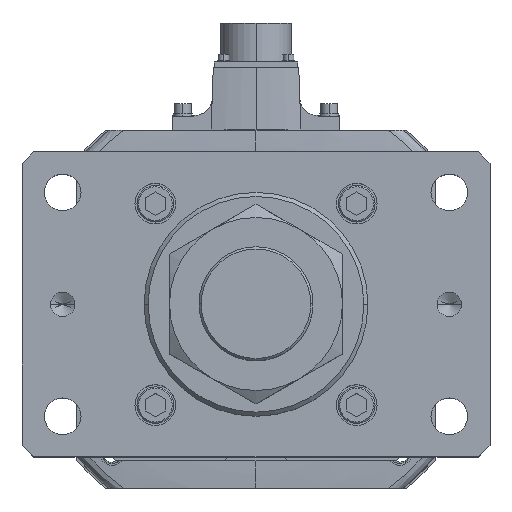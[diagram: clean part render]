
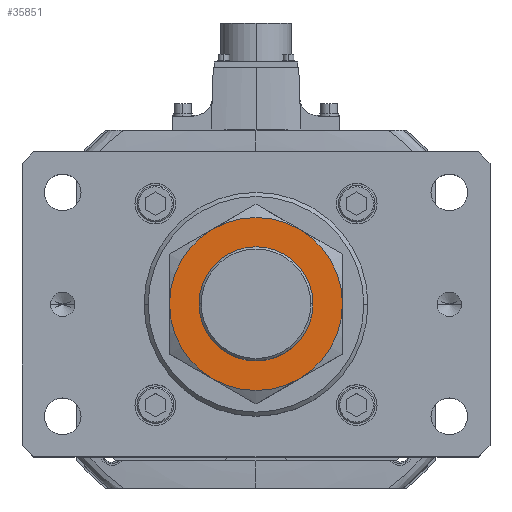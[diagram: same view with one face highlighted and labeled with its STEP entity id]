
A CAD part, top view. The second image highlights one B-rep face of the part: STEP entity #35851.
In plain terms, the highlighted planar face has unit normal (0, 0, 1).
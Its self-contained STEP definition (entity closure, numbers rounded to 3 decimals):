
#691 = CARTESIAN_POINT ( 'NONE',  ( 0., 0., 34. ) ) ;
#1355 = VERTEX_POINT ( 'NONE', #35332 ) ;
#1514 = VERTEX_POINT ( 'NONE', #39992 ) ;
#1523 = EDGE_LOOP ( 'NONE', ( #12354, #27371, #54067, #33827, #45844, #13050 ) ) ;
#2050 = DIRECTION ( 'NONE',  ( 1., 0., 0. ) ) ;
#2121 = EDGE_CURVE ( 'NONE', #25323, #1355, #6142, .T. ) ;
#2444 = PLANE ( 'NONE',  #30881 ) ;
#2595 = CIRCLE ( 'NONE', #28443, 28. ) ;
#4460 = CARTESIAN_POINT ( 'NONE',  ( 0., 0., 34. ) ) ;
#5567 = CARTESIAN_POINT ( 'NONE',  ( 0., 0., 34. ) ) ;
#5686 = DIRECTION ( 'NONE',  ( 1., 0., 0. ) ) ;
#6142 = CIRCLE ( 'NONE', #21937, 42.5 ) ;
#6478 = EDGE_CURVE ( 'NONE', #6547, #7341, #51299, .T. ) ;
#6547 = VERTEX_POINT ( 'NONE', #47926 ) ;
#7341 = VERTEX_POINT ( 'NONE', #15050 ) ;
#7449 = DIRECTION ( 'NONE',  ( 1., 0., 0. ) ) ;
#7695 = VERTEX_POINT ( 'NONE', #30955 ) ;
#8396 = CIRCLE ( 'NONE', #19869, 42.5 ) ;
#8787 = ORIENTED_EDGE ( 'NONE', *, *, #28664, .F. ) ;
#10409 = CIRCLE ( 'NONE', #44516, 28. ) ;
#10667 = CARTESIAN_POINT ( 'NONE',  ( 0., 0., 34. ) ) ;
#11697 = CARTESIAN_POINT ( 'NONE',  ( -28., 0., 34. ) ) ;
#12354 = ORIENTED_EDGE ( 'NONE', *, *, #15583, .F. ) ;
#12389 = AXIS2_PLACEMENT_3D ( 'NONE', #34413, #47267, #51345 ) ;
#12630 = VERTEX_POINT ( 'NONE', #11697 ) ;
#13050 = ORIENTED_EDGE ( 'NONE', *, *, #2121, .F. ) ;
#15021 = DIRECTION ( 'NONE',  ( 0., 0., 1. ) ) ;
#15050 = CARTESIAN_POINT ( 'NONE',  ( 21.25, 36.806, 34. ) ) ;
#15242 = CARTESIAN_POINT ( 'NONE',  ( 0., 0., 34. ) ) ;
#15583 = EDGE_CURVE ( 'NONE', #23037, #25323, #8396, .T. ) ;
#16137 = EDGE_CURVE ( 'NONE', #1355, #7695, #34293, .T. ) ;
#17100 = CARTESIAN_POINT ( 'NONE',  ( 0., 0., 34. ) ) ;
#17274 = AXIS2_PLACEMENT_3D ( 'NONE', #4460, #34202, #38496 ) ;
#18133 = EDGE_CURVE ( 'NONE', #12630, #1514, #2595, .T. ) ;
#19869 = AXIS2_PLACEMENT_3D ( 'NONE', #5567, #39251, #35323 ) ;
#21937 = AXIS2_PLACEMENT_3D ( 'NONE', #10667, #23665, #40997 ) ;
#23037 = VERTEX_POINT ( 'NONE', #54166 ) ;
#23665 = DIRECTION ( 'NONE',  ( 0., 0., -1. ) ) ;
#25323 = VERTEX_POINT ( 'NONE', #29131 ) ;
#27371 = ORIENTED_EDGE ( 'NONE', *, *, #43553, .F. ) ;
#28443 = AXIS2_PLACEMENT_3D ( 'NONE', #44454, #15021, #2050 ) ;
#28664 = EDGE_CURVE ( 'NONE', #1514, #12630, #10409, .T. ) ;
#28803 = CIRCLE ( 'NONE', #46557, 42.5 ) ;
#29131 = CARTESIAN_POINT ( 'NONE',  ( 21.25, -36.806, 34. ) ) ;
#29427 = DIRECTION ( 'NONE',  ( 1., 0., 0. ) ) ;
#30881 = AXIS2_PLACEMENT_3D ( 'NONE', #15242, #36848, #7449 ) ;
#30955 = CARTESIAN_POINT ( 'NONE',  ( -42.5, 0., 34. ) ) ;
#31706 = CIRCLE ( 'NONE', #17274, 42.5 ) ;
#31978 = DIRECTION ( 'NONE',  ( 0., 0., -1. ) ) ;
#33827 = ORIENTED_EDGE ( 'NONE', *, *, #53159, .F. ) ;
#34202 = DIRECTION ( 'NONE',  ( 0., 0., -1. ) ) ;
#34293 = CIRCLE ( 'NONE', #12389, 42.5 ) ;
#34413 = CARTESIAN_POINT ( 'NONE',  ( 0., 0., 34. ) ) ;
#35261 = DIRECTION ( 'NONE',  ( 0., 0., -1. ) ) ;
#35323 = DIRECTION ( 'NONE',  ( 1., 0., 0. ) ) ;
#35332 = CARTESIAN_POINT ( 'NONE',  ( -21.25, -36.806, 34. ) ) ;
#35702 = EDGE_LOOP ( 'NONE', ( #49577, #8787 ) ) ;
#35851 = ADVANCED_FACE ( 'NONE', ( #48482, #49802 ), #2444, .T. ) ;
#36848 = DIRECTION ( 'NONE',  ( 0., 0., 1. ) ) ;
#38496 = DIRECTION ( 'NONE',  ( 1., 0., 0. ) ) ;
#39251 = DIRECTION ( 'NONE',  ( 0., 0., -1. ) ) ;
#39992 = CARTESIAN_POINT ( 'NONE',  ( 28., 0., 34. ) ) ;
#40997 = DIRECTION ( 'NONE',  ( 1., 0., 0. ) ) ;
#41101 = DIRECTION ( 'NONE',  ( -1., 0., 0. ) ) ;
#42250 = DIRECTION ( 'NONE',  ( 0., 0., 1. ) ) ;
#43553 = EDGE_CURVE ( 'NONE', #7341, #23037, #31706, .T. ) ;
#44454 = CARTESIAN_POINT ( 'NONE',  ( 0., 0., 34. ) ) ;
#44516 = AXIS2_PLACEMENT_3D ( 'NONE', #17100, #42250, #29427 ) ;
#45844 = ORIENTED_EDGE ( 'NONE', *, *, #16137, .F. ) ;
#46557 = AXIS2_PLACEMENT_3D ( 'NONE', #49622, #31978, #41101 ) ;
#47267 = DIRECTION ( 'NONE',  ( 0., 0., -1. ) ) ;
#47926 = CARTESIAN_POINT ( 'NONE',  ( -21.25, 36.806, 34. ) ) ;
#48482 = FACE_OUTER_BOUND ( 'NONE', #1523, .T. ) ;
#49577 = ORIENTED_EDGE ( 'NONE', *, *, #18133, .F. ) ;
#49622 = CARTESIAN_POINT ( 'NONE',  ( 0., 0., 34. ) ) ;
#49802 = FACE_BOUND ( 'NONE', #35702, .T. ) ;
#49862 = AXIS2_PLACEMENT_3D ( 'NONE', #691, #35261, #5686 ) ;
#51299 = CIRCLE ( 'NONE', #49862, 42.5 ) ;
#51345 = DIRECTION ( 'NONE',  ( 1., 0., 0. ) ) ;
#53159 = EDGE_CURVE ( 'NONE', #7695, #6547, #28803, .T. ) ;
#54067 = ORIENTED_EDGE ( 'NONE', *, *, #6478, .F. ) ;
#54166 = CARTESIAN_POINT ( 'NONE',  ( 42.5, 0., 34. ) ) ;
